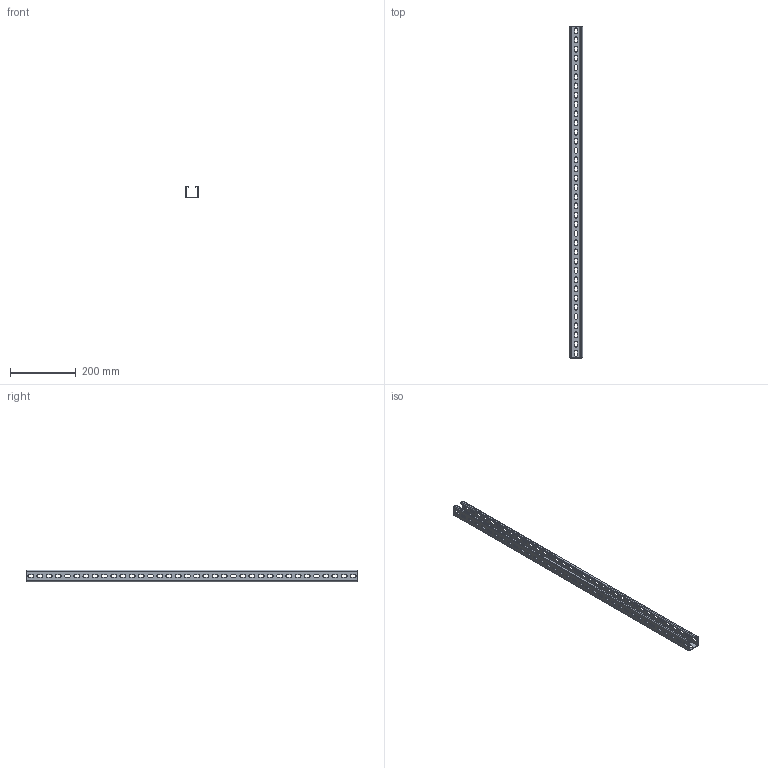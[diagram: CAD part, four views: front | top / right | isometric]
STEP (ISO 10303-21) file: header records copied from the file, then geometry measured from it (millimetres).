
FILE_DESCRIPTION(/* description */ (''),/* implementation_level */ '2;1');
FILE_NAME(/* name */ 'STPM-2~1',/* time_stamp */ '2025-03-13T21:09:41+01:00',/* author */ (''),/* organization */ (''),/* preprocessor_version */ 'ST-DEVELOPER v16.5',/* originating_system */ '',/* authorisation */ '');
FILE_SCHEMA (('CONFIG_CONTROL_DESIGN'));
Length unit declared in the file: millimetre
Products named in the file (1): Document
Bounding box: 40 x 1008 x 35 mm (x, y, z)
Volume: 219023.4 mm3; surface area: 233547.6 mm2
Topology: 1 solids, 1 shells, 462 faces, 1380 edges, 920 vertices
Faces by surface type: plane 234, cylinder 228
Entity records: 15580 total; most frequent: CARTESIAN_POINT 7224, ORIENTED_EDGE 2760, EDGE_CURVE 1380, VERTEX_POINT 920, EDGE_LOOP 678, DIRECTION 466, AXIS2_PLACEMENT_3D 464, ADVANCED_FACE 462
